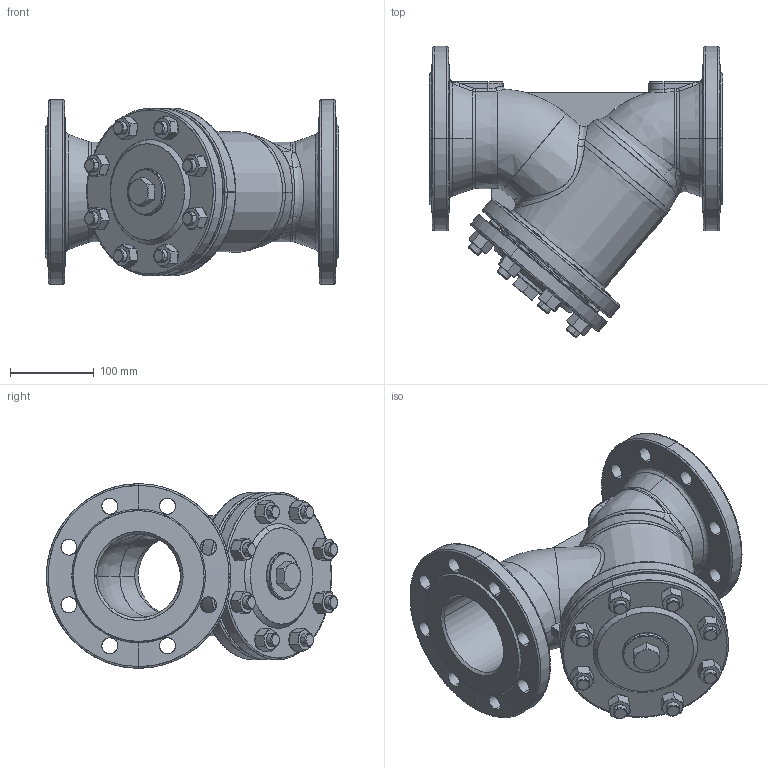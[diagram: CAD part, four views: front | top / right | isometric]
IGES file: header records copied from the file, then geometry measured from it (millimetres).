
Start section: SolidWorks IGES file using analytic representation for surfaces
Global section: file name: D:\katalog z³o¿eñ\00_Gotowe\821\RYSUNKI DXF\Z£O¯ENIA\Part\821_DN100_PN16.IGS; native system: SolidWorks 2010; preprocessor: SolidWorks 2010; author: alisowsk; date: 100108.130133; units: millimetre
Bounding box: 350 x 347.23 x 220 mm (x, y, z)
Surface area: 628732.1 mm2 (no closed solid volume)
Topology: 0 solids, 0 shells, 823 faces, 12726 edges, 12726 vertices
Faces by surface type: revolution 482, bspline 341
